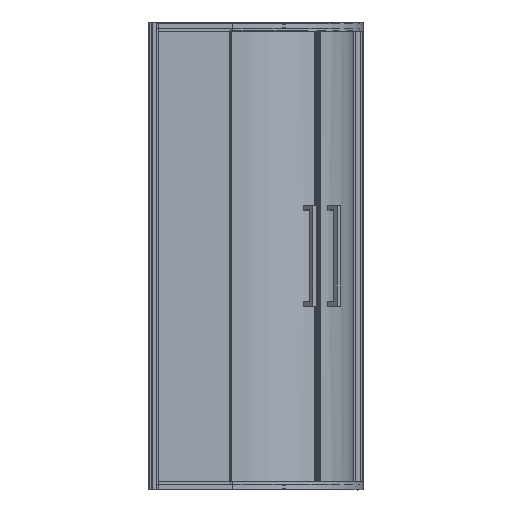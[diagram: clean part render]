
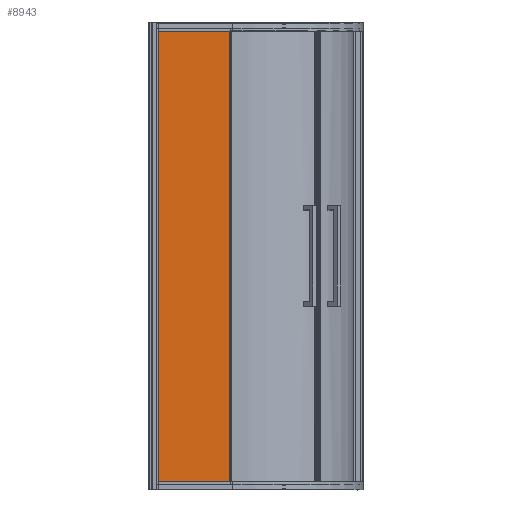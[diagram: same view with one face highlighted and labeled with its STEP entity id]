
A CAD part, front view. The second image highlights one B-rep face of the part: STEP entity #8943.
In plain terms, the highlighted planar face has unit normal (0, -1, 0) as drawn and (0, 0, 1) by its records, which use the part's own axes.
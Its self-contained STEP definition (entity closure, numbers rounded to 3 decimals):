
#8828=DIRECTION('',(0.,-1.,0.));
#8829=VECTOR('',#8828,1900.);
#8830=CARTESIAN_POINT('',(-155.,950.,4.));
#8831=LINE('',#8830,#8829);
#8832=DIRECTION('',(-1.,0.,0.));
#8833=VECTOR('',#8832,310.);
#8834=CARTESIAN_POINT('',(155.,950.,4.));
#8835=LINE('',#8834,#8833);
#8836=DIRECTION('',(0.,1.,0.));
#8837=VECTOR('',#8836,1900.);
#8838=CARTESIAN_POINT('',(155.,-950.,4.));
#8839=LINE('',#8838,#8837);
#8840=DIRECTION('',(1.,0.,0.));
#8841=VECTOR('',#8840,310.);
#8842=CARTESIAN_POINT('',(-155.,-950.,4.));
#8843=LINE('',#8842,#8841);
#8852=CARTESIAN_POINT('',(-155.,950.,4.));
#8853=CARTESIAN_POINT('',(-155.,-950.,4.));
#8854=VERTEX_POINT('',#8852);
#8855=VERTEX_POINT('',#8853);
#8856=CARTESIAN_POINT('',(155.,-950.,4.));
#8857=VERTEX_POINT('',#8856);
#8858=CARTESIAN_POINT('',(155.,950.,4.));
#8859=VERTEX_POINT('',#8858);
#8932=CARTESIAN_POINT('',(0.,0.,4.));
#8933=DIRECTION('',(0.,0.,1.));
#8934=DIRECTION('',(1.,0.,0.));
#8935=AXIS2_PLACEMENT_3D('',#8932,#8933,#8934);
#8936=PLANE('',#8935);
#8937=ORIENTED_EDGE('',*,*,#8884,.F.);
#8938=ORIENTED_EDGE('',*,*,#8899,.F.);
#8939=ORIENTED_EDGE('',*,*,#8913,.F.);
#8940=ORIENTED_EDGE('',*,*,#8926,.F.);
#8941=EDGE_LOOP('',(#8937,#8938,#8939,#8940));
#8942=FACE_OUTER_BOUND('',#8941,.F.);
#8943=ADVANCED_FACE('',(#8942),#8936,.T.);
#8884=EDGE_CURVE('',#8854,#8855,#8831,.T.);
#8899=EDGE_CURVE('',#8859,#8854,#8835,.T.);
#8913=EDGE_CURVE('',#8857,#8859,#8839,.T.);
#8926=EDGE_CURVE('',#8855,#8857,#8843,.T.);
